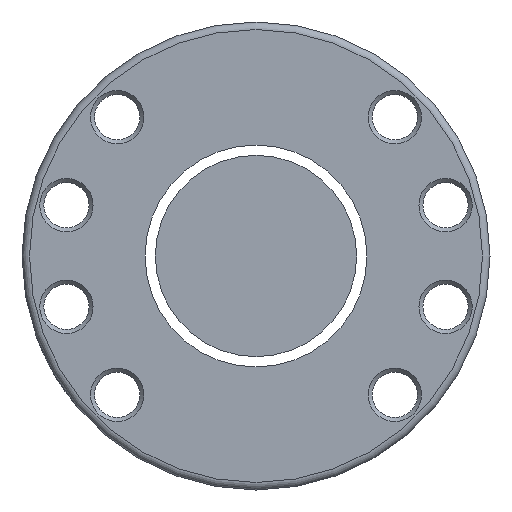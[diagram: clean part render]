
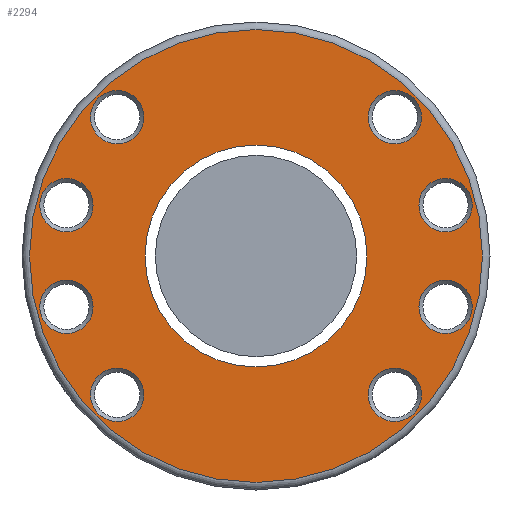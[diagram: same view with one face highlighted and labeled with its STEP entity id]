
A CAD part, left-side view. The second image highlights one B-rep face of the part: STEP entity #2294.
In plain terms, the highlighted planar face has unit normal (-1, 0, 0).
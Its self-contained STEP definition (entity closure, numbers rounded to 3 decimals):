
#27 = DIRECTION ( 'NONE',  ( 0., -1., 0. ) ) ;
#50 = AXIS2_PLACEMENT_3D ( 'NONE', #1004, #1654, #2287 ) ;
#90 = CARTESIAN_POINT ( 'NONE',  ( -88., 22.277, 27.577 ) ) ;
#118 = EDGE_LOOP ( 'NONE', ( #2319 ) ) ;
#133 = EDGE_CURVE ( 'NONE', #554, #554, #459, .T. ) ;
#138 = EDGE_CURVE ( 'NONE', #1611, #1611, #1972, .T. ) ;
#193 = ORIENTED_EDGE ( 'NONE', *, *, #558, .T. ) ;
#208 = EDGE_CURVE ( 'NONE', #1448, #1448, #2530, .T. ) ;
#229 = EDGE_CURVE ( 'NONE', #1007, #1007, #285, .T. ) ;
#248 = DIRECTION ( 'NONE',  ( -1., 0., 0. ) ) ;
#285 = CIRCLE ( 'NONE', #836, 5.3 ) ;
#293 = DIRECTION ( 'NONE',  ( 1., 0., 0. ) ) ;
#314 = CARTESIAN_POINT ( 'NONE',  ( -88., -45., 0. ) ) ;
#365 = DIRECTION ( 'NONE',  ( -1., 0., 0. ) ) ;
#381 = DIRECTION ( 'NONE',  ( 0., -1., 0. ) ) ;
#386 = EDGE_LOOP ( 'NONE', ( #1267 ) ) ;
#441 = FACE_OUTER_BOUND ( 'NONE', #2051, .T. ) ;
#459 = CIRCLE ( 'NONE', #50, 5.3 ) ;
#471 = FACE_BOUND ( 'NONE', #2425, .T. ) ;
#486 = CARTESIAN_POINT ( 'NONE',  ( -88., 27.577, 27.577 ) ) ;
#530 = CARTESIAN_POINT ( 'NONE',  ( -88., 37.671, -10.094 ) ) ;
#538 = EDGE_LOOP ( 'NONE', ( #1089 ) ) ;
#539 = VERTEX_POINT ( 'NONE', #314 ) ;
#554 = VERTEX_POINT ( 'NONE', #780 ) ;
#558 = EDGE_CURVE ( 'NONE', #1412, #1412, #1479, .T. ) ;
#630 = DIRECTION ( 'NONE',  ( 1., 0., 0. ) ) ;
#682 = ORIENTED_EDGE ( 'NONE', *, *, #2640, .T. ) ;
#780 = CARTESIAN_POINT ( 'NONE',  ( -88., 22.277, -27.577 ) ) ;
#794 = EDGE_LOOP ( 'NONE', ( #852 ) ) ;
#836 = AXIS2_PLACEMENT_3D ( 'NONE', #486, #1772, #27 ) ;
#852 = ORIENTED_EDGE ( 'NONE', *, *, #138, .T. ) ;
#867 = DIRECTION ( 'NONE',  ( 0., -1., 0. ) ) ;
#900 = CARTESIAN_POINT ( 'NONE',  ( -88., -27.577, 27.577 ) ) ;
#948 = CARTESIAN_POINT ( 'NONE',  ( -88., 22.05, 0. ) ) ;
#986 = DIRECTION ( 'NONE',  ( 1., 0., 0. ) ) ;
#1004 = CARTESIAN_POINT ( 'NONE',  ( -88., 27.577, -27.577 ) ) ;
#1007 = VERTEX_POINT ( 'NONE', #90 ) ;
#1030 = EDGE_CURVE ( 'NONE', #2523, #2523, #2618, .T. ) ;
#1060 = AXIS2_PLACEMENT_3D ( 'NONE', #2786, #630, #1085 ) ;
#1077 = FACE_BOUND ( 'NONE', #2129, .T. ) ;
#1085 = DIRECTION ( 'NONE',  ( 0., -1., 0. ) ) ;
#1089 = ORIENTED_EDGE ( 'NONE', *, *, #1030, .T. ) ;
#1201 = AXIS2_PLACEMENT_3D ( 'NONE', #1732, #248, #1746 ) ;
#1224 = ORIENTED_EDGE ( 'NONE', *, *, #229, .T. ) ;
#1255 = CIRCLE ( 'NONE', #1485, 45. ) ;
#1261 = DIRECTION ( 'NONE',  ( 1., 0., 0. ) ) ;
#1265 = DIRECTION ( 'NONE',  ( 0., -1., 0. ) ) ;
#1267 = ORIENTED_EDGE ( 'NONE', *, *, #133, .T. ) ;
#1277 = CARTESIAN_POINT ( 'NONE',  ( -88., -42.971, -10.094 ) ) ;
#1288 = VERTEX_POINT ( 'NONE', #1277 ) ;
#1297 = FACE_BOUND ( 'NONE', #386, .T. ) ;
#1303 = VERTEX_POINT ( 'NONE', #2834 ) ;
#1333 = FACE_BOUND ( 'NONE', #794, .T. ) ;
#1412 = VERTEX_POINT ( 'NONE', #2767 ) ;
#1424 = AXIS2_PLACEMENT_3D ( 'NONE', #530, #2550, #381 ) ;
#1438 = DIRECTION ( 'NONE',  ( 0., -1., 0. ) ) ;
#1448 = VERTEX_POINT ( 'NONE', #2073 ) ;
#1466 = CARTESIAN_POINT ( 'NONE',  ( -88., -37.671, 10.094 ) ) ;
#1479 = CIRCLE ( 'NONE', #1424, 5.3 ) ;
#1485 = AXIS2_PLACEMENT_3D ( 'NONE', #2329, #365, #1438 ) ;
#1515 = CARTESIAN_POINT ( 'NONE',  ( -88., -42.971, 10.094 ) ) ;
#1521 = AXIS2_PLACEMENT_3D ( 'NONE', #2080, #986, #1859 ) ;
#1532 = FACE_BOUND ( 'NONE', #2146, .T. ) ;
#1557 = CIRCLE ( 'NONE', #2299, 5.3 ) ;
#1592 = EDGE_LOOP ( 'NONE', ( #1224 ) ) ;
#1611 = VERTEX_POINT ( 'NONE', #948 ) ;
#1654 = DIRECTION ( 'NONE',  ( 1., 0., 0. ) ) ;
#1659 = CIRCLE ( 'NONE', #1834, 5.3 ) ;
#1662 = EDGE_CURVE ( 'NONE', #539, #539, #1255, .T. ) ;
#1716 = VERTEX_POINT ( 'NONE', #1515 ) ;
#1732 = CARTESIAN_POINT ( 'NONE',  ( -88., 46.5, 0. ) ) ;
#1746 = DIRECTION ( 'NONE',  ( 0., -1., 0. ) ) ;
#1772 = DIRECTION ( 'NONE',  ( 1., 0., 0. ) ) ;
#1834 = AXIS2_PLACEMENT_3D ( 'NONE', #1466, #2342, #1265 ) ;
#1852 = CARTESIAN_POINT ( 'NONE',  ( -88., -32.877, -27.577 ) ) ;
#1859 = DIRECTION ( 'NONE',  ( 0., -1., 0. ) ) ;
#1961 = ORIENTED_EDGE ( 'NONE', *, *, #208, .T. ) ;
#1972 = CIRCLE ( 'NONE', #2351, 22.05 ) ;
#1978 = FACE_BOUND ( 'NONE', #118, .T. ) ;
#2051 = EDGE_LOOP ( 'NONE', ( #2477 ) ) ;
#2062 = AXIS2_PLACEMENT_3D ( 'NONE', #900, #293, #2241 ) ;
#2073 = CARTESIAN_POINT ( 'NONE',  ( -88., -32.877, 27.577 ) ) ;
#2080 = CARTESIAN_POINT ( 'NONE',  ( -88., -27.577, -27.577 ) ) ;
#2100 = EDGE_CURVE ( 'NONE', #1716, #1716, #1659, .T. ) ;
#2129 = EDGE_LOOP ( 'NONE', ( #1961 ) ) ;
#2146 = EDGE_LOOP ( 'NONE', ( #2745 ) ) ;
#2170 = FACE_BOUND ( 'NONE', #2286, .T. ) ;
#2184 = FACE_BOUND ( 'NONE', #538, .T. ) ;
#2195 = PLANE ( 'NONE',  #1201 ) ;
#2241 = DIRECTION ( 'NONE',  ( 0., -1., 0. ) ) ;
#2286 = EDGE_LOOP ( 'NONE', ( #682 ) ) ;
#2287 = DIRECTION ( 'NONE',  ( 0., -1., 0. ) ) ;
#2294 = ADVANCED_FACE ( 'NONE', ( #441, #471, #1297, #2184, #1532, #1978, #1077, #2639, #2170, #1333 ), #2195, .T. ) ;
#2299 = AXIS2_PLACEMENT_3D ( 'NONE', #2816, #2609, #867 ) ;
#2319 = ORIENTED_EDGE ( 'NONE', *, *, #2100, .T. ) ;
#2329 = CARTESIAN_POINT ( 'NONE',  ( -88., 0., 0. ) ) ;
#2342 = DIRECTION ( 'NONE',  ( 1., 0., 0. ) ) ;
#2351 = AXIS2_PLACEMENT_3D ( 'NONE', #2746, #1261, #2539 ) ;
#2419 = EDGE_CURVE ( 'NONE', #1288, #1288, #2540, .T. ) ;
#2425 = EDGE_LOOP ( 'NONE', ( #193 ) ) ;
#2477 = ORIENTED_EDGE ( 'NONE', *, *, #1662, .T. ) ;
#2523 = VERTEX_POINT ( 'NONE', #1852 ) ;
#2530 = CIRCLE ( 'NONE', #2062, 5.3 ) ;
#2539 = DIRECTION ( 'NONE',  ( 0., 1., 0. ) ) ;
#2540 = CIRCLE ( 'NONE', #1060, 5.3 ) ;
#2550 = DIRECTION ( 'NONE',  ( 1., 0., 0. ) ) ;
#2609 = DIRECTION ( 'NONE',  ( 1., 0., 0. ) ) ;
#2618 = CIRCLE ( 'NONE', #1521, 5.3 ) ;
#2639 = FACE_BOUND ( 'NONE', #1592, .T. ) ;
#2640 = EDGE_CURVE ( 'NONE', #1303, #1303, #1557, .T. ) ;
#2745 = ORIENTED_EDGE ( 'NONE', *, *, #2419, .T. ) ;
#2746 = CARTESIAN_POINT ( 'NONE',  ( -88., 0., 0. ) ) ;
#2767 = CARTESIAN_POINT ( 'NONE',  ( -88., 32.371, -10.094 ) ) ;
#2786 = CARTESIAN_POINT ( 'NONE',  ( -88., -37.671, -10.094 ) ) ;
#2816 = CARTESIAN_POINT ( 'NONE',  ( -88., 37.671, 10.094 ) ) ;
#2834 = CARTESIAN_POINT ( 'NONE',  ( -88., 32.371, 10.094 ) ) ;
